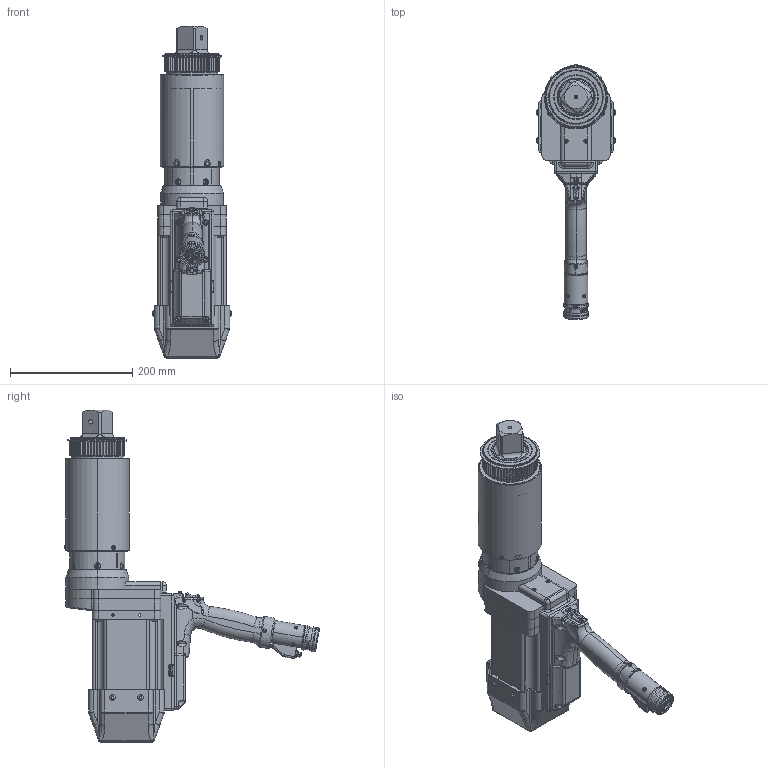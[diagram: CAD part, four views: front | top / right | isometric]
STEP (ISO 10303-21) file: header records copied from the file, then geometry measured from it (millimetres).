
FILE_DESCRIPTION (( 'STEP AP214' ), '1' );
FILE_NAME ('AEP4W998100B.STEP', '2021-12-13T21:05:00', ( '' ), ( '' ), 'SwSTEP 2.0', 'SolidWorks 2021', '' );
FILE_SCHEMA (( 'AUTOMOTIVE_DESIGN' ));
Length unit declared in the file: inch
Products named in the file (1): AEP4W998100B
Bounding box: 128.96 x 417.47 x 543.72 mm (x, y, z)
Surface area: 494488.3 mm2 (no closed solid volume)
Topology: 0 solids, 162 shells, 1561 faces, 6903 edges, 5315 vertices
Faces by surface type: cylinder 572, plane 427, bspline 202, torus 186, cone 141, sphere 33
Entity records: 162552 total; most frequent: CARTESIAN_POINT 90175, DIRECTION 9989, ORIENTED_EDGE 9601, EDGE_CURVE 6863, VERTEX_POINT 5315, AXIS2_PLACEMENT_3D 3459, VECTOR 3071, LINE 3071
